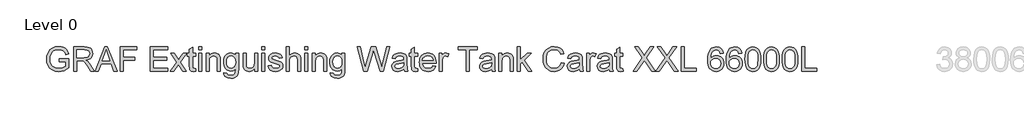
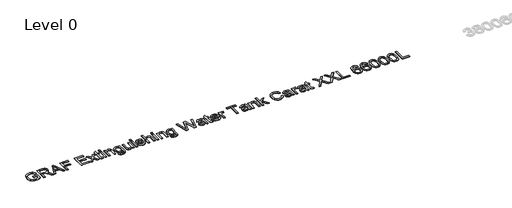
# One storey, part 1 of 37: 1 proxy.
"""IFC4 building model written with IfcOpenShell, lengths in millimetres."""

from ifc_helpers import new_model, si_unit, origin, origin_with_axes, place, context, project, spatial, polyline, outline, extrude, element, save

model = new_model("IFC4")

# Units and contexts
model_context = context("Model", 3, world=origin())
ifc_project = project(units=[si_unit("LENGTHUNIT", "METRE", prefix="MILLI")], contexts=[model_context])

# Site, building, storey
site = spatial("IfcSite", under=ifc_project)
building = spatial("IfcBuilding", under=site)
storey = spatial("IfcBuildingStorey", under=building, Name="Level 0", Elevation=0.0)

# Proxy
placement = place(None, origin())
element("IfcBuildingElementProxy", 1, Name="300mm Arial", ObjectType="300mm Arial", at=placement, inside=storey, context=model_context, shape_type="SweptSolid", body=[
    extrude(outline(polyline([(-17240.9940387, -41583.2545597), (-17240.9940387, -41545.5834434), (-17118.5629107, -41545.5834434), (-17118.5629107, -41658.2289103), (-17148.3153671, -41678.9222726), (-17179.0059225, -41693.7663111), (-17210.5610007, -41702.7058436), (-17242.9070251, -41705.6856877), (-17285.1674693, -41700.949207), (-17323.3628175, -41686.739765), (-17355.0926395, -41663.5540022), (-17377.9565055, -41631.8885595), (-17391.7796715, -41593.9047435), (-17396.3873935, -41551.7638609), (-17391.7980656, -41509.3194757), (-17378.0300819, -41469.8365406), (-17355.6536596, -41436.717964), (-17325.2390156, -41413.3666543), (-17288.1932987, -41399.5158972), (-17245.9236575, -41394.8989782), (-17214.8928112, -41397.5753197), (-17186.9889618, -41405.6043443), (-17163.4904994, -41418.4066377), (-17145.6758138, -41435.4027859), (-17132.4964413, -41457.4113262), (-17122.9039183, -41485.2507962), (-17157.6319786, -41495.0364573), (-17165.3850917, -41475.1800266), (-17174.8120678, -41460.1980323), (-17187.2832674, -41448.9040551), (-17204.169051, -41440.1116754), (-17224.3013932, -41434.4554897), (-17246.5122687, -41432.5700945), (-17272.5123287, -41434.6026425), (-17294.7415982, -41440.7002866), (-17313.1173039, -41450.0996716), (-17327.5566722, -41462.0374423), (-17346.9440533, -41491.0633317), (-17355.7732212, -41519.50061), (-17358.7162772, -41550.2187566), (-17355.175413, -41586.2436009), (-17344.5528204, -41615.8856927), (-17327.1703961, -41638.9334997), (-17303.3500369, -41655.1754898), (-17275.4737787, -41664.804801), (-17245.9236575, -41668.0145714), (-17219.831627, -41665.5957473), (-17194.3833899, -41658.3392749), (-17172.2828791, -41648.3420817), (-17156.234027, -41637.701095), (-17156.234027, -41583.2545597), (-17240.9940387, -41583.2545597)])), origin_with_axes(), (0.0, 0.0, 1.0), 10.0),
    extrude(outline(polyline([(-17057.3473467, -41700.9767982), (-17057.3473467, -41399.6078677), (-16927.4850024, -41399.6078677), (-16892.5821982, -41401.6404158), (-16867.1891434, -41407.7380598), (-16848.6294968, -41418.9952489), (-16834.2269167, -41436.5064318), (-16824.9838815, -41458.2206666), (-16821.9028698, -41482.087011), (-16827.0072325, -41511.7750881), (-16842.3203206, -41536.3863935), (-16853.9200997, -41546.4157764), (-16868.3019865, -41554.4310054), (-16905.4120827, -41564.4190016), (-16884.0013506, -41580.532233), (-16853.467145, -41619.3069952), (-16803.2144645, -41700.9767982), (-16846.9924219, -41700.9767982), (-16886.2086426, -41638.5104354), (-16914.5355562, -41597.1604991), (-16934.4379722, -41577.6259652), (-16952.3538253, -41570.4522663), (-16974.2060158, -41569.1278911), (-17019.6762304, -41569.1278911), (-17019.6762304, -41700.9767982), (-17057.3473467, -41700.9767982)]), holes=[polyline([(-17019.6762304, -41531.4567748), (-16935.3576771, -41531.4567748), (-16911.1418448, -41530.1232026), (-16892.3522719, -41526.1224859), (-16878.2072092, -41519.1879103), (-16867.9249074, -41509.0527613), (-16861.6617165, -41496.7930938), (-16859.5739861, -41483.4849626), (-16863.5563087, -41465.109257), (-16875.5032765, -41450.3020067), (-16896.058683, -41440.5347397), (-16925.8663217, -41437.278984), (-17019.6762304, -41437.278984), (-17019.6762304, -41531.4567748)])]), origin_with_axes(), (0.0, 0.0, 1.0), 10.0),
    extrude(outline(polyline([(-16791.0743586, -41700.9767982), (-16670.7769462, -41399.6078677), (-16638.6976362, -41399.6078677), (-16518.4002238, -41700.9767982), (-16558.2050557, -41700.9767982), (-16592.7123868, -41606.7990074), (-16716.835772, -41606.7990074), (-16751.2695268, -41700.9767982), (-16791.0743586, -41700.9767982)]), holes=[polyline([(-16703.003409, -41569.1278911), (-16606.4711735, -41569.1278911), (-16633.6208647, -41495.0364573), (-16654.7372912, -41437.278984), (-16673.499273, -41488.5617342), (-16703.003409, -41569.1278911)])]), origin_with_axes(), (0.0, 0.0, 1.0), 10.0),
    extrude(outline(polyline([(-16478.1539335, -41700.9767982), (-16478.1539335, -41399.6078677), (-16275.6716834, -41399.6078677), (-16275.6716834, -41437.278984), (-16440.4828172, -41437.278984), (-16440.4828172, -41526.7478853), (-16299.2161311, -41526.7478853), (-16299.2161311, -41564.4190016), (-16440.4828172, -41564.4190016), (-16440.4828172, -41700.9767982), (-16478.1539335, -41700.9767982)])), origin_with_axes(), (0.0, 0.0, 1.0), 10.0),
    extrude(outline(polyline([(-16106.15166, -41700.9767982), (-16106.15166, -41399.6078677), (-15889.5427413, -41399.6078677), (-15889.5427413, -41437.278984), (-16068.4805437, -41437.278984), (-16068.4805437, -41526.7478853), (-15898.9605203, -41526.7478853), (-15898.9605203, -41564.4190016), (-16068.4805437, -41564.4190016), (-16068.4805437, -41663.3056819), (-15884.8338517, -41663.3056819), (-15884.8338517, -41700.9767982), (-16106.15166, -41700.9767982)])), origin_with_axes(), (0.0, 0.0, 1.0), 10.0),
    extrude(outline(polyline([(-15856.5805145, -41700.9767982), (-15776.0879339, -41589.7292828), (-15851.8716249, -41479.6589899), (-15806.5485631, -41479.6589899), (-15769.9810928, -41532.6339972), (-15752.9113682, -41557.6499729), (-15738.122512, -41537.1957339), (-15696.4782702, -41479.6589899), (-15651.1552084, -41479.6589899), (-15730.7648721, -41589.7292828), (-15654.0982643, -41700.9767982), (-15699.4213261, -41700.9767982), (-15745.5537283, -41634.0958515), (-15754.0150142, -41621.8821692), (-15811.2574527, -41700.9767982), (-15856.5805145, -41700.9767982)])), origin_with_axes(), (0.0, 0.0, 1.0), 10.0),
    extrude(outline(polyline([(-15541.0849154, -41669.5596758), (-15536.3760259, -41702.0804442), (-15564.5557867, -41705.6856877), (-15582.6371868, -41704.1221892), (-15596.1200619, -41699.4316938), (-15605.6482056, -41692.2028126), (-15611.8654113, -41683.0241568), (-15615.2867139, -41667.2604133), (-15616.427148, -41640.276269), (-15616.427148, -41517.3301062), (-15644.6804853, -41517.3301062), (-15644.6804853, -41479.6589899), (-15616.427148, -41479.6589899), (-15616.427148, -41425.8746422), (-15578.7560317, -41403.7281461), (-15578.7560317, -41479.6589899), (-15541.0849154, -41479.6589899), (-15541.0849154, -41517.3301062), (-15578.7560317, -41517.3301062), (-15578.7560317, -41639.172623), (-15576.769469, -41658.5967923), (-15570.331534, -41665.4761856), (-15557.4924524, -41668.0145714), (-15541.0849154, -41669.5596758)])), origin_with_axes(), (0.0, 0.0, 1.0), 10.0),
    extrude(outline(polyline([(-15503.4137991, -41437.278984), (-15503.4137991, -41399.6078677), (-15465.7426828, -41399.6078677), (-15465.7426828, -41437.278984), (-15503.4137991, -41437.278984)])), origin_with_axes(), (0.0, 0.0, 1.0), 10.0),
    extrude(outline(polyline([(-15503.4137991, -41700.9767982), (-15503.4137991, -41479.6589899), (-15465.7426828, -41479.6589899), (-15465.7426828, -41700.9767982), (-15503.4137991, -41700.9767982)])), origin_with_axes(), (0.0, 0.0, 1.0), 10.0),
    extrude(outline(polyline([(-15409.2360084, -41700.9767982), (-15409.2360084, -41479.6589899), (-15371.564892, -41479.6589899), (-15371.564892, -41510.5610775), (-15358.4774901, -41494.981275), (-15342.7597318, -41483.8528446), (-15324.4116173, -41477.1757864), (-15303.4331465, -41474.9501003), (-15284.8643028, -41476.7435251), (-15267.8589576, -41482.1237992), (-15253.6771067, -41490.4195382), (-15243.5787459, -41500.9593574), (-15232.2847687, -41528.6608716), (-15230.2982059, -41565.0811892), (-15230.2982059, -41700.9767982), (-15267.9693222, -41700.9767982), (-15267.9693222, -41570.1579607), (-15272.3103297, -41536.8278519), (-15278.3160033, -41526.9042351), (-15287.6510089, -41519.2063044), (-15299.6163708, -41514.2674886), (-15313.5131132, -41512.6212166), (-15335.5768359, -41516.3184307), (-15354.3848029, -41527.4100729), (-15361.9010919, -41536.4645685), (-15367.2698698, -41548.8391991), (-15371.564892, -41583.5488653), (-15371.564892, -41700.9767982), (-15409.2360084, -41700.9767982)])), origin_with_axes(), (0.0, 0.0, 1.0), 10.0),
    extrude(outline(polyline([(-15187.9182001, -41719.8123563), (-15150.2470837, -41724.5212459), (-15146.0900172, -41736.2934697), (-15138.0334015, -41744.3868736), (-15122.1960816, -41750.6776557), (-15101.4659312, -41752.7745831), (-15079.3562233, -41750.4017442), (-15062.9118981, -41743.2832276), (-15051.5075562, -41731.8788858), (-15044.5177983, -41716.6485712), (-15041.9426244, -41672.7234609), (-15054.4782034, -41685.084296), (-15068.4669162, -41693.9134639), (-15083.908763, -41699.2109646), (-15100.8037436, -41700.9767982), (-15121.4580184, -41698.9212575), (-15139.6428852, -41692.7546356), (-15155.3583442, -41682.4769323), (-15168.6043953, -41668.0881478), (-15179.1143241, -41650.8252852), (-15186.621416, -41631.9253477), (-15191.1256712, -41611.3883353), (-15192.6270896, -41589.214248), (-15189.932354, -41558.7996041), (-15181.8481471, -41530.8313754), (-15168.6595776, -41507.1305779), (-15150.6517539, -41489.5182274), (-15128.4408785, -41478.5921321), (-15102.6431536, -41474.9501003), (-15085.0262045, -41477.0102395), (-15069.0371333, -41483.190657), (-15054.6759399, -41493.4913529), (-15041.9426244, -41507.9123271), (-15041.9426244, -41479.6589899), (-15004.2715081, -41479.6589899), (-15004.2715081, -41670.7368982), (-15006.846682, -41714.8551464), (-15014.5722039, -41743.908627), (-15027.8803351, -41763.1764465), (-15047.2033369, -41777.9377116), (-15072.118145, -41787.3187024), (-15102.2016952, -41790.4456994), (-15137.2516523, -41786.0403125), (-15164.851999, -41772.8241518), (-15175.2469646, -41762.9028343), (-15182.55632, -41750.7604292), (-15186.7800651, -41736.3969365), (-15187.9182001, -41719.8123563)]), holes=[polyline([(-15154.9559733, -41586.6390741), (-15150.9368625, -41621.1923905), (-15138.8795301, -41644.9483703), (-15120.7521448, -41658.716354), (-15098.5228752, -41663.3056819), (-15076.4591526, -41658.7439451), (-15058.2397968, -41645.0587349), (-15046.0169175, -41621.6062577), (-15041.9426244, -41587.7427201), (-15046.1364791, -41555.0839959), (-15058.7180433, -41531.5671394), (-15077.2041136, -41517.3576973), (-15099.1114864, -41512.6212166), (-15120.6233861, -41517.2841209), (-15138.6588009, -41531.2728338), (-15150.8816802, -41554.4402024), (-15154.9559733, -41586.6390741)])]), origin_with_axes(), (0.0, 0.0, 1.0), 10.0),
    extrude(outline(polyline([(-14806.4981475, -41700.9767982), (-14806.4981475, -41662.9377999), (-14820.1281754, -41681.6400008), (-14836.0022835, -41694.9987158), (-14854.1204717, -41703.0139447), (-14874.4827402, -41705.6856877), (-14892.8308547, -41703.8094895), (-14909.9097763, -41698.180895), (-14924.23878, -41689.7196091), (-14934.3371408, -41679.3453369), (-14945.5575416, -41651.6070344), (-14947.7648336, -41616.5846685), (-14947.7648336, -41479.6589899), (-14910.0937173, -41479.6589899), (-14910.0937173, -41598.8527563), (-14907.8128489, -41637.2596366), (-14902.3222101, -41650.0711271), (-14892.9136281, -41659.8108029), (-14880.2125022, -41665.9636293), (-14864.8442319, -41668.0145714), (-14848.5930448, -41665.917644), (-14833.3903213, -41659.6268619), (-14820.8547423, -41649.7216392), (-14812.6049886, -41636.78139), (-14808.0248577, -41619.0586749), (-14806.4981475, -41594.8060544), (-14806.4981475, -41479.6589899), (-14768.8270311, -41479.6589899), (-14768.8270311, -41700.9767982), (-14806.4981475, -41700.9767982)])), origin_with_axes(), (0.0, 0.0, 1.0), 10.0),
    extrude(outline(polyline([(-14717.0292462, -41437.278984), (-14717.0292462, -41399.6078677), (-14679.3581299, -41399.6078677), (-14679.3581299, -41437.278984), (-14717.0292462, -41437.278984)])), origin_with_axes(), (0.0, 0.0, 1.0), 10.0),
    extrude(outline(polyline([(-14717.0292462, -41700.9767982), (-14717.0292462, -41479.6589899), (-14679.3581299, -41479.6589899), (-14679.3581299, -41700.9767982), (-14717.0292462, -41700.9767982)])), origin_with_axes(), (0.0, 0.0, 1.0), 10.0),
    extrude(outline(polyline([(-14636.9781241, -41635.0523446), (-14599.3070078, -41630.3434551), (-14593.3657135, -41646.4566865), (-14581.8694012, -41658.3024867), (-14564.7444943, -41665.5865502), (-14541.9174165, -41668.0145714), (-14519.3662502, -41665.7888853), (-14503.5105362, -41659.1118271), (-14494.1295453, -41649.4365307), (-14491.0025484, -41638.2161298), (-14494.1479394, -41628.6144097), (-14503.5841126, -41621.293558), (-14542.3588749, -41610.5514038), (-14599.0862786, -41592.1205158), (-14613.4428734, -41582.8590866), (-14623.8447368, -41570.5994191), (-14630.1631101, -41556.1232626), (-14632.2692345, -41540.2123663), (-14630.5769774, -41525.6166481), (-14625.5002058, -41512.1429701), (-14617.4987724, -41500.324761), (-14607.0325297, -41490.6954497), (-14583.0834118, -41479.5486253), (-14550.673008, -41474.9501003), (-14526.153673, -41476.7987074), (-14504.8349114, -41482.3445284), (-14487.6916104, -41491.0449376), (-14475.6986574, -41502.357309), (-14467.7524063, -41517.118574), (-14462.7492112, -41536.1656643), (-14500.4203275, -41540.8745539), (-14505.1752023, -41529.0195566), (-14514.5837843, -41520.0892211), (-14528.738044, -41514.4882178), (-14547.729952, -41512.6212166), (-14569.3614134, -41514.4054443), (-14583.7823876, -41519.7581274), (-14591.8941856, -41527.4836493), (-14594.5981182, -41536.3863935), (-14590.1099579, -41547.349277), (-14576.0568657, -41555.6634101), (-14543.6096737, -41563.6832376), (-14488.3170098, -41581.4151497), (-14473.7120946, -41589.8948297), (-14462.6388466, -41601.5015067), (-14455.6582857, -41616.2719688), (-14453.3314321, -41634.2430043), (-14456.0629559, -41652.821045), (-14464.2575273, -41670.2954398), (-14477.6024467, -41685.2958281), (-14495.7850143, -41696.4518496), (-14517.7475694, -41703.3772282), (-14542.4324513, -41705.6856877), (-14580.4162673, -41701.2343156), (-14608.1361757, -41687.8801991), (-14626.64064, -41665.7704912), (-14636.9781241, -41635.0523446)])), origin_with_axes(), (0.0, 0.0, 1.0), 10.0),
    extrude(outline(polyline([(-14410.9514262, -41700.9767982), (-14410.9514262, -41399.6078677), (-14373.2803099, -41399.6078677), (-14373.2803099, -41510.4139247), (-14359.4433484, -41494.8985015), (-14343.9049326, -41483.8160564), (-14326.6650626, -41477.1665894), (-14307.7237384, -41474.9501003), (-14284.970237, -41477.3689245), (-14265.4173089, -41484.6253968), (-14250.0214474, -41496.1493003), (-14239.7391457, -41511.3704179), (-14233.9450043, -41532.2845093), (-14232.0136238, -41560.8873344), (-14232.0136238, -41700.9767982), (-14269.6847401, -41700.9767982), (-14269.6847401, -41564.7868836), (-14272.6829784, -41541.2056477), (-14281.6776931, -41525.0556281), (-14296.1722437, -41515.7298195), (-14315.6699895, -41512.6212166), (-14331.5900828, -41514.718144), (-14346.5352889, -41521.0089261), (-14358.914518, -41530.8865577), (-14367.1366806, -41543.7440334), (-14371.7444026, -41560.8321521), (-14373.2803099, -41583.4017125), (-14373.2803099, -41700.9767982), (-14410.9514262, -41700.9767982)])), origin_with_axes(), (0.0, 0.0, 1.0), 10.0),
    extrude(outline(polyline([(-14180.2158389, -41437.278984), (-14180.2158389, -41399.6078677), (-14142.5447226, -41399.6078677), (-14142.5447226, -41437.278984), (-14180.2158389, -41437.278984)])), origin_with_axes(), (0.0, 0.0, 1.0), 10.0),
    extrude(outline(polyline([(-14180.2158389, -41700.9767982), (-14180.2158389, -41479.6589899), (-14142.5447226, -41479.6589899), (-14142.5447226, -41700.9767982), (-14180.2158389, -41700.9767982)])), origin_with_axes(), (0.0, 0.0, 1.0), 10.0),
    extrude(outline(polyline([(-14086.0380481, -41700.9767982), (-14086.0380481, -41479.6589899), (-14048.3669318, -41479.6589899), (-14048.3669318, -41510.5610775), (-14035.2795298, -41494.981275), (-14019.5617716, -41483.8528446), (-14001.2136571, -41477.1757864), (-13980.2351863, -41474.9501003), (-13961.6663426, -41476.7435251), (-13944.6609974, -41482.1237992), (-13930.4791464, -41490.4195382), (-13920.3807857, -41500.9593574), (-13909.0868084, -41528.6608716), (-13907.1002456, -41565.0811892), (-13907.1002456, -41700.9767982), (-13944.771362, -41700.9767982), (-13944.771362, -41570.1579607), (-13949.1123695, -41536.8278519), (-13955.1180431, -41526.9042351), (-13964.4530487, -41519.2063044), (-13976.4184106, -41514.2674886), (-13990.315153, -41512.6212166), (-14012.3788756, -41516.3184307), (-14031.1868426, -41527.4100729), (-14038.7031316, -41536.4645685), (-14044.0719095, -41548.8391991), (-14048.3669318, -41583.5488653), (-14048.3669318, -41700.9767982), (-14086.0380481, -41700.9767982)])), origin_with_axes(), (0.0, 0.0, 1.0), 10.0),
    extrude(outline(polyline([(-13864.7202398, -41719.8123563), (-13827.0491235, -41724.5212459), (-13822.8920569, -41736.2934697), (-13814.8354413, -41744.3868736), (-13798.9981214, -41750.6776557), (-13778.2679709, -41752.7745831), (-13756.158263, -41750.4017442), (-13739.7139378, -41743.2832276), (-13728.309596, -41731.8788858), (-13721.3198381, -41716.6485712), (-13718.7446641, -41672.7234609), (-13731.2802431, -41685.084296), (-13745.268956, -41693.9134639), (-13760.7108027, -41699.2109646), (-13777.6057833, -41700.9767982), (-13798.2600581, -41698.9212575), (-13816.444925, -41692.7546356), (-13832.160384, -41682.4769323), (-13845.4064351, -41668.0881478), (-13855.9163638, -41650.8252852), (-13863.4234558, -41631.9253477), (-13867.9277109, -41611.3883353), (-13869.4291293, -41589.214248), (-13866.7343937, -41558.7996041), (-13858.6501869, -41530.8313754), (-13845.4616174, -41507.1305779), (-13827.4537937, -41489.5182274), (-13805.2429182, -41478.5921321), (-13779.4451933, -41474.9501003), (-13761.8282443, -41477.0102395), (-13745.8391731, -41483.190657), (-13731.4779797, -41493.4913529), (-13718.7446641, -41507.9123271), (-13718.7446641, -41479.6589899), (-13681.0735478, -41479.6589899), (-13681.0735478, -41670.7368982), (-13683.6487218, -41714.8551464), (-13691.3742437, -41743.908627), (-13704.6823748, -41763.1764465), (-13724.0053766, -41777.9377116), (-13748.9201848, -41787.3187024), (-13779.0037349, -41790.4456994), (-13814.053692, -41786.0403125), (-13841.6540387, -41772.8241518), (-13852.0490043, -41762.9028343), (-13859.3583597, -41750.7604292), (-13863.5821049, -41736.3969365), (-13864.7202398, -41719.8123563)]), holes=[polyline([(-13831.758013, -41586.6390741), (-13827.7389022, -41621.1923905), (-13815.6815698, -41644.9483703), (-13797.5541845, -41658.716354), (-13775.324915, -41663.3056819), (-13753.2611923, -41658.7439451), (-13735.0418365, -41645.0587349), (-13722.8189572, -41621.6062577), (-13718.7446641, -41587.7427201), (-13722.9385189, -41555.0839959), (-13735.5200831, -41531.5671394), (-13754.0061534, -41517.3576973), (-13775.9135262, -41512.6212166), (-13797.4254258, -41517.2841209), (-13815.4608406, -41531.2728338), (-13827.6837199, -41554.4402024), (-13831.758013, -41586.6390741)])]), origin_with_axes(), (0.0, 0.0, 1.0), 10.0),
    extrude(outline(polyline([(-13448.2042449, -41700.9767982), (-13530.3890826, -41399.6078677), (-13491.5407439, -41399.6078677), (-13443.8632373, -41597.6755339), (-13429.1479575, -41658.8175215), (-13413.4026081, -41604.7388682), (-13353.6585721, -41399.6078677), (-13297.6669324, -41399.6078677), (-13254.256857, -41548.3057702), (-13235.6604221, -41603.4880695), (-13221.9568178, -41658.8175215), (-13207.6829964, -41599.4413675), (-13159.5640314, -41399.6078677), (-13120.7156928, -41399.6078677), (-13202.9741069, -41700.9767982), (-13243.2203971, -41700.9767982), (-13315.472421, -41468.4753772), (-13325.5523877, -41436.0281853), (-13336.8831531, -41475.0972531), (-13402.7340303, -41700.9767982), (-13448.2042449, -41700.9767982)])), origin_with_axes(), (0.0, 0.0, 1.0), 10.0),
    extrude(outline(polyline([(-12946.4867798, -41672.7234609), (-12964.4854065, -41688.1561106), (-12983.017462, -41698.2544714), (-13002.5060107, -41703.8278836), (-13023.3741168, -41705.6856877), (-13054.8556186, -41701.2159215), (-13078.0781695, -41687.8066228), (-13092.3979762, -41667.4443543), (-13097.1712451, -41642.1156789), (-13095.3686233, -41626.4990883), (-13089.960758, -41612.3172373), (-13081.6190337, -41600.1771315), (-13071.0148352, -41590.685776), (-13044.6376962, -41578.324941), (-13012.0433514, -41572.6595583), (-12973.5261065, -41566.6998699), (-12946.707509, -41559.710112), (-12946.4867798, -41551.3224025), (-12949.0803479, -41534.5101954), (-12956.8610521, -41523.5105237), (-12974.2618705, -41515.3435434), (-12998.505294, -41512.6212166), (-13020.9460957, -41514.4330355), (-13036.6178687, -41519.868492), (-13047.3048406, -41529.9208675), (-13054.7912392, -41545.5834434), (-13092.4623555, -41540.8745539), (-13085.9232531, -41520.2731621), (-13076.1651831, -41504.0863544), (-13062.2776378, -41491.7071252), (-13043.3501092, -41482.5284694), (-13020.2011346, -41476.8446926), (-12993.6492516, -41474.9501003), (-12968.1826205, -41476.6239634), (-12947.995096, -41481.6455527), (-12932.7739785, -41489.1963306), (-12922.2065682, -41498.4577598), (-12915.1984162, -41509.9080869), (-12910.6550735, -41524.0255585), (-12908.8156635, -41556.9877853), (-12908.8156635, -41603.8559515), (-12906.9026772, -41669.3021584), (-12899.3978845, -41700.9767982), (-12937.0690008, -41700.9767982), (-12946.4867798, -41672.7234609)]), holes=[polyline([(-12946.4867798, -41597.3812283), (-13007.2608854, -41608.932723), (-13039.6712892, -41615.0395641), (-13054.3497808, -41624.972378), (-13059.5001288, -41639.4669286), (-13056.6950285, -41650.6689353), (-13048.2797279, -41659.8475911), (-13034.4381678, -41665.9728263), (-13015.3542893, -41668.0145714), (-12995.1207796, -41665.7612942), (-12977.2417146, -41659.0014625), (-12962.747164, -41649.0410575), (-12952.6671974, -41637.1860602), (-12948.1974311, -41624.972378), (-12946.707509, -41608.0498062), (-12946.4867798, -41597.3812283)])]), origin_with_axes(), (0.0, 0.0, 1.0), 10.0),
    extrude(outline(polyline([(-12776.9667565, -41669.5596758), (-12772.2578669, -41702.0804442), (-12800.4376278, -41705.6856877), (-12818.5190278, -41704.1221892), (-12832.0019029, -41699.4316938), (-12841.5300466, -41692.2028126), (-12847.7472523, -41683.0241568), (-12851.1685549, -41667.2604133), (-12852.3089891, -41640.276269), (-12852.3089891, -41517.3301062), (-12880.5623263, -41517.3301062), (-12880.5623263, -41479.6589899), (-12852.3089891, -41479.6589899), (-12852.3089891, -41425.8746422), (-12814.6378728, -41403.7281461), (-12814.6378728, -41479.6589899), (-12776.9667565, -41479.6589899), (-12776.9667565, -41517.3301062), (-12814.6378728, -41517.3301062), (-12814.6378728, -41639.172623), (-12812.65131, -41658.5967923), (-12806.2133751, -41665.4761856), (-12793.3742934, -41668.0145714), (-12776.9667565, -41669.5596758)])), origin_with_axes(), (0.0, 0.0, 1.0), 10.0),
    extrude(outline(polyline([(-12584.3437438, -41635.0523446), (-12547.4083915, -41639.7612342), (-12560.7165226, -41667.5915071), (-12581.9525108, -41688.3952339), (-12610.6381094, -41701.3630743), (-12646.2950718, -41705.6856877), (-12669.669374, -41703.8209859), (-12690.4960935, -41698.2268803), (-12708.7752301, -41688.9033709), (-12724.506784, -41675.8504579), (-12737.1573261, -41659.4314246), (-12746.1934276, -41640.0095545), (-12751.6150885, -41617.5848477), (-12753.4223088, -41592.157304), (-12751.5966944, -41565.8675369), (-12746.1198512, -41542.6955698), (-12736.9917792, -41522.6414025), (-12724.2124784, -41505.7050351), (-12708.5223113, -41492.2497512), (-12690.6616404, -41482.638834), (-12670.6304658, -41476.8722838), (-12648.4287873, -41474.9501003), (-12626.9421796, -41476.8676852), (-12607.5111124, -41482.6204399), (-12590.1355859, -41492.2083644), (-12574.8156001, -41505.6314587), (-12562.3099115, -41522.5310379), (-12553.3772768, -41542.548417), (-12548.017696, -41565.6835959), (-12546.2311691, -41591.9365748), (-12546.4518983, -41602.0901179), (-12715.7511925, -41602.0901179), (-12709.2304841, -41630.2882728), (-12694.0829429, -41651.0184232), (-12672.2215554, -41663.7655344), (-12645.5593078, -41668.0145714), (-12625.509739, -41666.0464027), (-12608.6239555, -41660.1418967), (-12594.901957, -41649.9331713), (-12584.3437438, -41635.0523446)]), holes=[polyline([(-12715.7511925, -41564.4190016), (-12583.9022854, -41564.4190016), (-12588.997451, -41544.5165856), (-12598.9854472, -41530.2795524), (-12620.9480023, -41517.0358006), (-12648.5759401, -41512.6212166), (-12673.9689949, -41516.1436868), (-12694.9658597, -41526.7110971), (-12709.5615779, -41543.1830134), (-12715.7511925, -41564.4190016)])]), origin_with_axes(), (0.0, 0.0, 1.0), 10.0),
    extrude(outline(polyline([(-12508.5600528, -41700.9767982), (-12508.5600528, -41479.6589899), (-12475.597826, -41479.6589899), (-12475.597826, -41512.4004875), (-12463.420932, -41493.4177765), (-12452.2005311, -41482.2341638), (-12440.9433421, -41476.7711162), (-12428.6560834, -41474.9501003), (-12409.8941017, -41477.8563681), (-12390.8378143, -41486.5751714), (-12403.4193786, -41520.3467385), (-12416.6631304, -41514.5525971), (-12429.9068822, -41512.6212166), (-12441.1548742, -41514.4790207), (-12451.2072497, -41520.052433), (-12459.3282448, -41528.918389), (-12464.7820954, -41540.6538247), (-12469.3622262, -41561.6966748), (-12470.8889365, -41584.6525113), (-12470.8889365, -41700.9767982), (-12508.5600528, -41700.9767982)])), origin_with_axes(), (0.0, 0.0, 1.0), 10.0),
    extrude(outline(polyline([(-12169.520006, -41700.9767982), (-12169.520006, -41437.278984), (-12268.4066863, -41437.278984), (-12268.4066863, -41399.6078677), (-12032.9622094, -41399.6078677), (-12032.9622094, -41437.278984), (-12131.8488897, -41437.278984), (-12131.8488897, -41700.9767982), (-12169.520006, -41700.9767982)])), origin_with_axes(), (0.0, 0.0, 1.0), 10.0),
    extrude(outline(polyline([(-11854.024407, -41672.7234609), (-11872.0230336, -41688.1561106), (-11890.5550891, -41698.2544714), (-11910.0436378, -41703.8278836), (-11930.911744, -41705.6856877), (-11962.3932457, -41701.2159215), (-11985.6157966, -41687.8066228), (-11999.9356033, -41667.4443543), (-12004.7088722, -41642.1156789), (-12002.9062504, -41626.4990883), (-11997.4983851, -41612.3172373), (-11989.1566608, -41600.1771315), (-11978.5524623, -41590.685776), (-11952.1753233, -41578.324941), (-11919.5809785, -41572.6595583), (-11881.0637336, -41566.6998699), (-11854.2451362, -41559.710112), (-11854.024407, -41551.3224025), (-11856.617975, -41534.5101954), (-11864.3986792, -41523.5105237), (-11881.7994976, -41515.3435434), (-11906.0429211, -41512.6212166), (-11928.4837228, -41514.4330355), (-11944.1554958, -41519.868492), (-11954.8424677, -41529.9208675), (-11962.3288663, -41545.5834434), (-11999.9999826, -41540.8745539), (-11993.4608802, -41520.2731621), (-11983.7028103, -41504.0863544), (-11969.8152649, -41491.7071252), (-11950.8877363, -41482.5284694), (-11927.7387617, -41476.8446926), (-11901.1868787, -41474.9501003), (-11875.7202476, -41476.6239634), (-11855.5327231, -41481.6455527), (-11840.3116056, -41489.1963306), (-11829.7441953, -41498.4577598), (-11822.7360433, -41509.9080869), (-11818.1927006, -41524.0255585), (-11816.3532907, -41556.9877853), (-11816.3532907, -41603.8559515), (-11814.4403043, -41669.3021584), (-11806.9355116, -41700.9767982), (-11844.6066279, -41700.9767982), (-11854.024407, -41672.7234609)]), holes=[polyline([(-11854.024407, -41597.3812283), (-11914.7985126, -41608.932723), (-11947.2089163, -41615.0395641), (-11961.8874079, -41624.972378), (-11967.0377559, -41639.4669286), (-11964.2326557, -41650.6689353), (-11955.817355, -41659.8475911), (-11941.975795, -41665.9728263), (-11922.8919165, -41668.0145714), (-11902.6584067, -41665.7612942), (-11884.7793418, -41659.0014625), (-11870.2847911, -41649.0410575), (-11860.2048245, -41637.1860602), (-11855.7350582, -41624.972378), (-11854.2451362, -41608.0498062), (-11854.024407, -41597.3812283)])]), origin_with_axes(), (0.0, 0.0, 1.0), 10.0),
    extrude(outline(polyline([(-11764.5555057, -41700.9767982), (-11764.5555057, -41479.6589899), (-11726.8843894, -41479.6589899), (-11726.8843894, -41510.5610775), (-11713.7969875, -41494.981275), (-11698.0792292, -41483.8528446), (-11679.7311147, -41477.1757864), (-11658.7526439, -41474.9501003), (-11640.1838002, -41476.7435251), (-11623.178455, -41482.1237992), (-11608.9966041, -41490.4195382), (-11598.8982433, -41500.9593574), (-11587.6042661, -41528.6608716), (-11585.6177033, -41565.0811892), (-11585.6177033, -41700.9767982), (-11623.2888196, -41700.9767982), (-11623.2888196, -41570.1579607), (-11627.6298271, -41536.8278519), (-11633.6355007, -41526.9042351), (-11642.9705063, -41519.2063044), (-11654.9358682, -41514.2674886), (-11668.8326106, -41512.6212166), (-11690.8963333, -41516.3184307), (-11709.7043003, -41527.4100729), (-11717.2205893, -41536.4645685), (-11722.5893671, -41548.8391991), (-11726.8843894, -41583.5488653), (-11726.8843894, -41700.9767982), (-11764.5555057, -41700.9767982)])), origin_with_axes(), (0.0, 0.0, 1.0), 10.0),
    extrude(outline(polyline([(-11533.8199184, -41700.9767982), (-11533.8199184, -41399.6078677), (-11496.1488021, -41399.6078677), (-11496.1488021, -41561.549522), (-11411.683096, -41479.6589899), (-11359.5910054, -41479.6589899), (-11445.0867811, -41562.5795916), (-11354.8821159, -41700.9767982), (-11398.8808025, -41700.9767982), (-11472.0893196, -41588.7727896), (-11496.1488021, -41612.0965081), (-11496.1488021, -41700.9767982), (-11533.8199184, -41700.9767982)])), origin_with_axes(), (0.0, 0.0, 1.0), 10.0),
    extrude(outline(polyline([(-10987.5887319, -41593.8495612), (-10949.9176156, -41603.5616459), (-10957.3718245, -41626.9888312), (-10967.3000399, -41647.4591649), (-10979.7022617, -41664.9726472), (-10994.5784898, -41679.5292779), (-11011.5930321, -41690.9727072), (-11030.4101962, -41699.1465853), (-11051.029982, -41704.0509121), (-11073.4523896, -41705.6856877), (-11117.1475736, -41700.7376749), (-11151.8480428, -41685.8936364), (-11178.445911, -41661.668607), (-11197.8332922, -41628.5776215), (-11209.6698954, -41589.6741005), (-11213.6154298, -41548.0114646), (-11209.1548606, -41504.0679603), (-11195.773153, -41466.1209325), (-11174.1692828, -41435.3751947), (-11145.0422259, -41413.0355606), (-11110.4981065, -41399.4331238), (-11072.6430492, -41394.8989782), (-11031.3390982, -41400.766696), (-11013.370362, -41408.1013433), (-10997.190452, -41418.3698495), (-10983.0660826, -41431.3009016), (-10971.2639684, -41446.6231867), (-10954.6265052, -41484.4414558), (-10992.2976215, -41493.4177765), (-11005.3574323, -41465.9461885), (-11023.1997091, -41447.1014333), (-11046.045181, -41436.2029292), (-11074.1145772, -41432.5700945), (-11106.4697987, -41436.5984023), (-11133.0492728, -41448.6833259), (-11153.2184032, -41467.5556722), (-11166.3425934, -41491.9462485), (-11173.5438834, -41519.5190041), (-11175.9443135, -41547.9378882), (-11173.102425, -41582.7395249), (-11164.5767598, -41612.8322721), (-11150.045421, -41637.0664986), (-11129.1865119, -41654.292573), (-11104.1797332, -41664.5840718), (-11077.2047859, -41668.0145714), (-11045.7600724, -41663.3424701), (-11019.5576773, -41649.3261661), (-10999.774823, -41626.1128122), (-10987.5887319, -41593.8495612)])), origin_with_axes(), (0.0, 0.0, 1.0), 10.0),
    extrude(outline(polyline([(-10761.5620341, -41672.7234609), (-10779.5606607, -41688.1561106), (-10798.0927162, -41698.2544714), (-10817.5812649, -41703.8278836), (-10838.4493711, -41705.6856877), (-10869.9308728, -41701.2159215), (-10893.1534238, -41687.8066228), (-10907.4732304, -41667.4443543), (-10912.2464993, -41642.1156789), (-10910.4438775, -41626.4990883), (-10905.0360122, -41612.3172373), (-10896.694288, -41600.1771315), (-10886.0900895, -41590.685776), (-10859.7129504, -41578.324941), (-10827.1186056, -41572.6595583), (-10788.6013607, -41566.6998699), (-10761.7827633, -41559.710112), (-10761.5620341, -41551.3224025), (-10764.1556022, -41534.5101954), (-10771.9363064, -41523.5105237), (-10789.3371247, -41515.3435434), (-10813.5805482, -41512.6212166), (-10836.0213499, -41514.4330355), (-10851.6931229, -41519.868492), (-10862.3800949, -41529.9208675), (-10869.8664935, -41545.5834434), (-10907.5376098, -41540.8745539), (-10900.9985073, -41520.2731621), (-10891.2404374, -41504.0863544), (-10877.3528921, -41491.7071252), (-10858.4253634, -41482.5284694), (-10835.2763889, -41476.8446926), (-10808.7245059, -41474.9501003), (-10783.2578748, -41476.6239634), (-10763.0703503, -41481.6455527), (-10747.8492327, -41489.1963306), (-10737.2818224, -41498.4577598), (-10730.2736704, -41509.9080869), (-10725.7303278, -41524.0255585), (-10723.8909178, -41556.9877853), (-10723.8909178, -41603.8559515), (-10721.9779314, -41669.3021584), (-10714.4731387, -41700.9767982), (-10752.144255, -41700.9767982), (-10761.5620341, -41672.7234609)]), holes=[polyline([(-10761.5620341, -41597.3812283), (-10822.3361397, -41608.932723), (-10854.7465435, -41615.0395641), (-10869.4250351, -41624.972378), (-10874.575383, -41639.4669286), (-10871.7702828, -41650.6689353), (-10863.3549822, -41659.8475911), (-10849.5134221, -41665.9728263), (-10830.4295436, -41668.0145714), (-10810.1960338, -41665.7612942), (-10792.3169689, -41659.0014625), (-10777.8224183, -41649.0410575), (-10767.7424516, -41637.1860602), (-10763.2726854, -41624.972378), (-10761.7827633, -41608.0498062), (-10761.5620341, -41597.3812283)])]), origin_with_axes(), (0.0, 0.0, 1.0), 10.0),
    extrude(outline(polyline([(-10672.0931329, -41700.9767982), (-10672.0931329, -41479.6589899), (-10639.1309061, -41479.6589899), (-10639.1309061, -41512.4004875), (-10626.9540121, -41493.4177765), (-10615.7336112, -41482.2341638), (-10604.4764221, -41476.7711162), (-10592.1891635, -41474.9501003), (-10573.4271818, -41477.8563681), (-10554.3708944, -41486.5751714), (-10566.9524586, -41520.3467385), (-10580.1962105, -41514.5525971), (-10593.4399623, -41512.6212166), (-10604.6879543, -41514.4790207), (-10614.7403298, -41520.052433), (-10622.8613249, -41528.918389), (-10628.3151754, -41540.6538247), (-10632.8953063, -41561.6966748), (-10634.4220166, -41584.6525113), (-10634.4220166, -41700.9767982), (-10672.0931329, -41700.9767982)])), origin_with_axes(), (0.0, 0.0, 1.0), 10.0),
    extrude(outline(polyline([(-10389.5597606, -41672.7234609), (-10407.5583872, -41688.1561106), (-10426.0904427, -41698.2544714), (-10445.5789914, -41703.8278836), (-10466.4470976, -41705.6856877), (-10497.9285993, -41701.2159215), (-10521.1511502, -41687.8066228), (-10535.4709569, -41667.4443543), (-10540.2442258, -41642.1156789), (-10538.441604, -41626.4990883), (-10533.0337387, -41612.3172373), (-10524.6920144, -41600.1771315), (-10514.0878159, -41590.685776), (-10487.7106769, -41578.324941), (-10455.1163321, -41572.6595583), (-10416.5990872, -41566.6998699), (-10389.7804898, -41559.710112), (-10389.5597606, -41551.3224025), (-10392.1533286, -41534.5101954), (-10399.9340328, -41523.5105237), (-10417.3348512, -41515.3435434), (-10441.5782747, -41512.6212166), (-10464.0190764, -41514.4330355), (-10479.6908494, -41519.868492), (-10490.3778213, -41529.9208675), (-10497.8642199, -41545.5834434), (-10535.5353362, -41540.8745539), (-10528.9962338, -41520.2731621), (-10519.2381639, -41504.0863544), (-10505.3506185, -41491.7071252), (-10486.4230899, -41482.5284694), (-10463.2741153, -41476.8446926), (-10436.7222323, -41474.9501003), (-10411.2556012, -41476.6239634), (-10391.0680767, -41481.6455527), (-10375.8469592, -41489.1963306), (-10365.2795489, -41498.4577598), (-10358.2713969, -41509.9080869), (-10353.7280542, -41524.0255585), (-10351.8886443, -41556.9877853), (-10351.8886443, -41603.8559515), (-10349.9756579, -41669.3021584), (-10342.4708652, -41700.9767982), (-10380.1419815, -41700.9767982), (-10389.5597606, -41672.7234609)]), holes=[polyline([(-10389.5597606, -41597.3812283), (-10450.3338662, -41608.932723), (-10482.7442699, -41615.0395641), (-10497.4227615, -41624.972378), (-10502.5731095, -41639.4669286), (-10499.7680093, -41650.6689353), (-10491.3527086, -41659.8475911), (-10477.5111486, -41665.9728263), (-10458.4272701, -41668.0145714), (-10438.1937603, -41665.7612942), (-10420.3146954, -41659.0014625), (-10405.8201448, -41649.0410575), (-10395.7401781, -41637.1860602), (-10391.2704118, -41624.972378), (-10389.7804898, -41608.0498062), (-10389.5597606, -41597.3812283)])]), origin_with_axes(), (0.0, 0.0, 1.0), 10.0),
    extrude(outline(polyline([(-10220.0397372, -41669.5596758), (-10215.3308476, -41702.0804442), (-10243.5106085, -41705.6856877), (-10261.5920085, -41704.1221892), (-10275.0748837, -41699.4316938), (-10284.6030273, -41692.2028126), (-10290.8202331, -41683.0241568), (-10294.2415356, -41667.2604133), (-10295.3819698, -41640.276269), (-10295.3819698, -41517.3301062), (-10323.635307, -41517.3301062), (-10323.635307, -41479.6589899), (-10295.3819698, -41479.6589899), (-10295.3819698, -41425.8746422), (-10257.7108535, -41403.7281461), (-10257.7108535, -41479.6589899), (-10220.0397372, -41479.6589899), (-10220.0397372, -41517.3301062), (-10257.7108535, -41517.3301062), (-10257.7108535, -41639.172623), (-10255.7242907, -41658.5967923), (-10249.2863558, -41665.4761856), (-10236.4472742, -41668.0145714), (-10220.0397372, -41669.5596758)])), origin_with_axes(), (0.0, 0.0, 1.0), 10.0),
    extrude(outline(polyline([(-10092.8997197, -41700.9767982), (-9976.7225856, -41536.7542755), (-10074.0641615, -41399.6078677), (-10028.8882525, -41399.6078677), (-9974.0738352, -41476.7895103), (-9955.6061591, -41506.8822575), (-9933.9746977, -41476.2744755), (-9879.7488916, -41399.6078677), (-9833.910795, -41399.6078677), (-9931.252371, -41537.1957339), (-9815.0752369, -41700.9767982), (-9860.2511459, -41700.9767982), (-9937.6535177, -41591.789422), (-9953.7667491, -41569.1278911), (-9971.4986612, -41593.996714), (-10047.0616231, -41700.9767982), (-10092.8997197, -41700.9767982)])), origin_with_axes(), (0.0, 0.0, 1.0), 10.0),
    extrude(outline(polyline([(-9810.3663474, -41700.9767982), (-9694.1892133, -41536.7542755), (-9791.5307892, -41399.6078677), (-9746.3548802, -41399.6078677), (-9691.5404629, -41476.7895103), (-9673.0727868, -41506.8822575), (-9651.4413254, -41476.2744755), (-9597.2155194, -41399.6078677), (-9551.3774228, -41399.6078677), (-9648.7189987, -41537.1957339), (-9532.5418646, -41700.9767982), (-9577.7177736, -41700.9767982), (-9655.1201454, -41591.789422), (-9671.2333768, -41569.1278911), (-9688.9652889, -41593.996714), (-9764.5282508, -41700.9767982), (-9810.3663474, -41700.9767982)])), origin_with_axes(), (0.0, 0.0, 1.0), 10.0),
    extrude(outline(polyline([(-9494.8707483, -41700.9767982), (-9494.8707483, -41399.6078677), (-9457.199632, -41399.6078677), (-9457.199632, -41663.3056819), (-9306.5151668, -41663.3056819), (-9306.5151668, -41700.9767982), (-9494.8707483, -41700.9767982)])), origin_with_axes(), (0.0, 0.0, 1.0), 10.0),
    extrude(outline(polyline([(-8967.47512, -41479.6589899), (-9005.1462363, -41484.3678794), (-9011.2162892, -41465.6978682), (-9019.4200577, -41452.950757), (-9036.5081764, -41441.1969273), (-9057.1647504, -41437.278984), (-9074.6759334, -41439.5598524), (-9091.1570468, -41446.4024575), (-9105.3113066, -41460.8142347), (-9116.8719982, -41480.6522713), (-9124.6802936, -41508.7124704), (-9127.5773643, -41547.7907354), (-9112.4666114, -41530.1599908), (-9094.3576201, -41517.7347764), (-9074.2620662, -41510.3679394), (-9053.1916249, -41507.9123271), (-9035.0918307, -41509.5907887), (-9018.3899881, -41514.6261735), (-9003.0860971, -41523.0184815), (-8989.1801577, -41534.7677128), (-8977.6240645, -41549.1748914), (-8969.3697123, -41565.5410417), (-8964.4171009, -41583.8661635), (-8962.7662305, -41604.150257), (-8965.8748333, -41631.1252043), (-8975.2006419, -41656.131983), (-8989.971104, -41677.34038), (-9009.4136675, -41692.9201825), (-9032.6454155, -41702.4943114), (-9058.7834312, -41705.6856877), (-9081.2403278, -41703.5703662), (-9101.522122, -41697.2244018), (-9119.628814, -41686.6477945), (-9135.5604036, -41671.8405442), (-9148.5489373, -41652.1772515), (-9157.8264614, -41627.0325171), (-9163.3929758, -41596.406341), (-9165.2484806, -41560.2987232), (-9163.1883414, -41519.8179082), (-9157.0079239, -41485.2691903), (-9146.7072281, -41456.6525696), (-9132.2862538, -41433.9680461), (-9116.6558676, -41418.9354681), (-9098.5330808, -41408.1979123), (-9077.9178935, -41401.7553789), (-9054.8103057, -41399.6078677), (-9021.7561084, -41404.9237626), (-8995.2869988, -41420.8714471), (-8976.7457463, -41446.2001224), (-8967.47512, -41479.6589899)]), holes=[polyline([(-9127.5773643, -41603.5616459), (-9125.3976635, -41620.2542914), (-9118.858561, -41636.1927788), (-9108.705018, -41649.8963831), (-9095.6819953, -41659.8843793), (-9079.9642371, -41665.9820234), (-9061.7264872, -41668.0145714), (-9036.8668613, -41663.8023226), (-9017.3231304, -41651.165576), (-9004.6587927, -41631.2999483), (-9000.4373468, -41605.4010558), (-9004.6036104, -41580.54143), (-9017.1024012, -41561.5863102), (-9036.9772259, -41549.5841601), (-9063.2715916, -41545.5834434), (-9088.0944292, -41549.5841601), (-9108.8521708, -41561.5863102), (-9122.8960659, -41580.0815775), (-9127.5773643, -41603.5616459)])]), origin_with_axes(), (0.0, 0.0, 1.0), 10.0),
    extrude(outline(polyline([(-8736.7395326, -41479.6589899), (-8774.4106489, -41484.3678794), (-8780.4807019, -41465.6978682), (-8788.6844704, -41452.950757), (-8805.772589, -41441.1969273), (-8826.4291631, -41437.278984), (-8843.940346, -41439.5598524), (-8860.4214594, -41446.4024575), (-8874.5757192, -41460.8142347), (-8886.1364109, -41480.6522713), (-8893.9447062, -41508.7124704), (-8896.8417769, -41547.7907354), (-8881.731024, -41530.1599908), (-8863.6220328, -41517.7347764), (-8843.5264788, -41510.3679394), (-8822.4560375, -41507.9123271), (-8804.3562433, -41509.5907887), (-8787.6544008, -41514.6261735), (-8772.3505098, -41523.0184815), (-8758.4445703, -41534.7677128), (-8746.8884772, -41549.1748914), (-8738.6341249, -41565.5410417), (-8733.6815135, -41583.8661635), (-8732.0306431, -41604.150257), (-8735.139246, -41631.1252043), (-8744.4650545, -41656.131983), (-8759.2355166, -41677.34038), (-8778.6780801, -41692.9201825), (-8801.9098281, -41702.4943114), (-8828.0478438, -41705.6856877), (-8850.5047404, -41703.5703662), (-8870.7865346, -41697.2244018), (-8888.8932266, -41686.6477945), (-8904.8248162, -41671.8405442), (-8917.8133499, -41652.1772515), (-8927.090874, -41627.0325171), (-8932.6573884, -41596.406341), (-8934.5128932, -41560.2987232), (-8932.4527541, -41519.8179082), (-8926.2723365, -41485.2691903), (-8915.9716407, -41456.6525696), (-8901.5506665, -41433.9680461), (-8885.9202802, -41418.9354681), (-8867.7974934, -41408.1979123), (-8847.1823061, -41401.7553789), (-8824.0747183, -41399.6078677), (-8791.020521, -41404.9237626), (-8764.5514115, -41420.8714471), (-8746.0101589, -41446.2001224), (-8736.7395326, -41479.6589899)]), holes=[polyline([(-8896.8417769, -41603.5616459), (-8894.6620761, -41620.2542914), (-8888.1229736, -41636.1927788), (-8877.9694306, -41649.8963831), (-8864.946408, -41659.8843793), (-8849.2286497, -41665.9820234), (-8830.9908998, -41668.0145714), (-8806.131274, -41663.8023226), (-8786.587543, -41651.165576), (-8773.9232053, -41631.2999483), (-8769.7017594, -41605.4010558), (-8773.868023, -41580.54143), (-8786.3668138, -41561.5863102), (-8806.2416386, -41549.5841601), (-8832.5360042, -41545.5834434), (-8857.3588418, -41549.5841601), (-8878.1165834, -41561.5863102), (-8892.1604785, -41580.0815775), (-8896.8417769, -41603.5616459)])]), origin_with_axes(), (0.0, 0.0, 1.0), 10.0),
    extrude(outline(polyline([(-8699.0684163, -41552.7203541), (-8696.3001043, -41504.4818275), (-8687.9951683, -41466.0105679), (-8674.2363817, -41436.717964), (-8655.1065179, -41416.0154047), (-8630.4676213, -41403.709752), (-8600.181736, -41399.6078677), (-8576.9683821, -41402.0358889), (-8556.1830494, -41409.3199524), (-8538.8006251, -41421.1749497), (-8525.7959966, -41437.3157722), (-8515.9735473, -41457.6044643), (-8508.1376608, -41481.9030701), (-8503.005707, -41512.7591724), (-8501.2950557, -41552.7203541), (-8504.0357766, -41600.6829692), (-8512.2579392, -41639.0622584), (-8525.9339523, -41668.3824534), (-8545.0362249, -41689.1677861), (-8569.7303039, -41701.5562123), (-8600.181736, -41705.6856877), (-8620.9302806, -41703.892263), (-8639.3243803, -41698.5119888), (-8655.3640353, -41689.5448652), (-8669.0492455, -41676.9908921), (-8682.1826327, -41654.2971715), (-8691.5636236, -41626.0208417), (-8697.1922182, -41592.1619025), (-8699.0684163, -41552.7203541)]), holes=[polyline([(-8661.3973, -41552.6467777), (-8656.9827161, -41611.9033701), (-8651.4644862, -41632.1713688), (-8643.7389643, -41646.1991691), (-8624.0204893, -41662.5607208), (-8600.181736, -41668.0145714), (-8576.3429827, -41662.5423267), (-8556.6245078, -41646.1255927), (-8548.8989859, -41632.0747997), (-8543.380756, -41611.8113996), (-8538.966172, -41552.6467777), (-8543.2336032, -41494.7237576), (-8548.5678921, -41474.5224375), (-8556.0358966, -41460.1612441), (-8575.7175833, -41442.9995491), (-8600.6231944, -41437.278984), (-8624.2044303, -41442.3189674), (-8643.1503531, -41457.4389174), (-8651.1333924, -41473.0739022), (-8656.8355633, -41494.1535405), (-8661.3973, -41552.6467777)])]), origin_with_axes(), (0.0, 0.0, 1.0), 10.0),
    extrude(outline(polyline([(-8468.332829, -41552.7203541), (-8465.5645169, -41504.4818275), (-8457.2595809, -41466.0105679), (-8443.5007943, -41436.717964), (-8424.3709305, -41416.0154047), (-8399.7320339, -41403.709752), (-8369.4461486, -41399.6078677), (-8346.2327948, -41402.0358889), (-8325.447462, -41409.3199524), (-8308.0650378, -41421.1749497), (-8295.0604092, -41437.3157722), (-8285.23796, -41457.6044643), (-8277.4020735, -41481.9030701), (-8272.2701196, -41512.7591724), (-8270.5594683, -41552.7203541), (-8273.3001892, -41600.6829692), (-8281.5223518, -41639.0622584), (-8295.198365, -41668.3824534), (-8314.3006376, -41689.1677861), (-8338.9947165, -41701.5562123), (-8369.4461486, -41705.6856877), (-8390.1946932, -41703.892263), (-8408.5887929, -41698.5119888), (-8424.6284479, -41689.5448652), (-8438.3136581, -41676.9908921), (-8451.4470454, -41654.2971715), (-8460.8280363, -41626.0208417), (-8466.4566308, -41592.1619025), (-8468.332829, -41552.7203541)]), holes=[polyline([(-8430.6617126, -41552.6467777), (-8426.2471287, -41611.9033701), (-8420.7288988, -41632.1713688), (-8413.0033769, -41646.1991691), (-8393.2849019, -41662.5607208), (-8369.4461486, -41668.0145714), (-8345.6073954, -41662.5423267), (-8325.8889204, -41646.1255927), (-8318.1633985, -41632.0747997), (-8312.6451686, -41611.8113996), (-8308.2305847, -41552.6467777), (-8312.4980158, -41494.7237576), (-8317.8323047, -41474.5224375), (-8325.3003092, -41460.1612441), (-8344.981996, -41442.9995491), (-8369.887607, -41437.278984), (-8393.4688429, -41442.3189674), (-8412.4147657, -41457.4389174), (-8420.397805, -41473.0739022), (-8426.0999759, -41494.1535405), (-8430.6617126, -41552.6467777)])]), origin_with_axes(), (0.0, 0.0, 1.0), 10.0),
    extrude(outline(polyline([(-8237.5972416, -41552.7203541), (-8234.8289296, -41504.4818275), (-8226.5239935, -41466.0105679), (-8212.7652069, -41436.717964), (-8193.6353432, -41416.0154047), (-8168.9964465, -41403.709752), (-8138.7105613, -41399.6078677), (-8115.4972074, -41402.0358889), (-8094.7118747, -41409.3199524), (-8077.3294504, -41421.1749497), (-8064.3248218, -41437.3157722), (-8054.5023726, -41457.6044643), (-8046.6664861, -41481.9030701), (-8041.5345322, -41512.7591724), (-8039.823881, -41552.7203541), (-8042.5646018, -41600.6829692), (-8050.7867644, -41639.0622584), (-8064.4627776, -41668.3824534), (-8083.5650502, -41689.1677861), (-8108.2591291, -41701.5562123), (-8138.7105613, -41705.6856877), (-8159.4591058, -41703.892263), (-8177.8532056, -41698.5119888), (-8193.8928606, -41689.5448652), (-8207.5780708, -41676.9908921), (-8220.711458, -41654.2971715), (-8230.0924489, -41626.0208417), (-8235.7210434, -41592.1619025), (-8237.5972416, -41552.7203541)]), holes=[polyline([(-8199.9261253, -41552.6467777), (-8195.5115413, -41611.9033701), (-8189.9933114, -41632.1713688), (-8182.2677895, -41646.1991691), (-8162.5493146, -41662.5607208), (-8138.7105613, -41668.0145714), (-8114.871808, -41662.5423267), (-8095.153333, -41646.1255927), (-8087.4278111, -41632.0747997), (-8081.9095812, -41611.8113996), (-8077.4949973, -41552.6467777), (-8081.7624284, -41494.7237576), (-8087.0967174, -41474.5224375), (-8094.5647219, -41460.1612441), (-8114.2464086, -41442.9995491), (-8139.1520197, -41437.278984), (-8162.7332556, -41442.3189674), (-8181.6791783, -41457.4389174), (-8189.6622176, -41473.0739022), (-8195.3643885, -41494.1535405), (-8199.9261253, -41552.6467777)])]), origin_with_axes(), (0.0, 0.0, 1.0), 10.0),
    extrude(outline(polyline([(-7992.7349856, -41700.9767982), (-7992.7349856, -41399.6078677), (-7955.0638693, -41399.6078677), (-7955.0638693, -41663.3056819), (-7804.3794041, -41663.3056819), (-7804.3794041, -41700.9767982), (-7992.7349856, -41700.9767982)])), origin_with_axes(), (0.0, 0.0, 1.0), 10.0),
])

save(model, "model.ifc")
